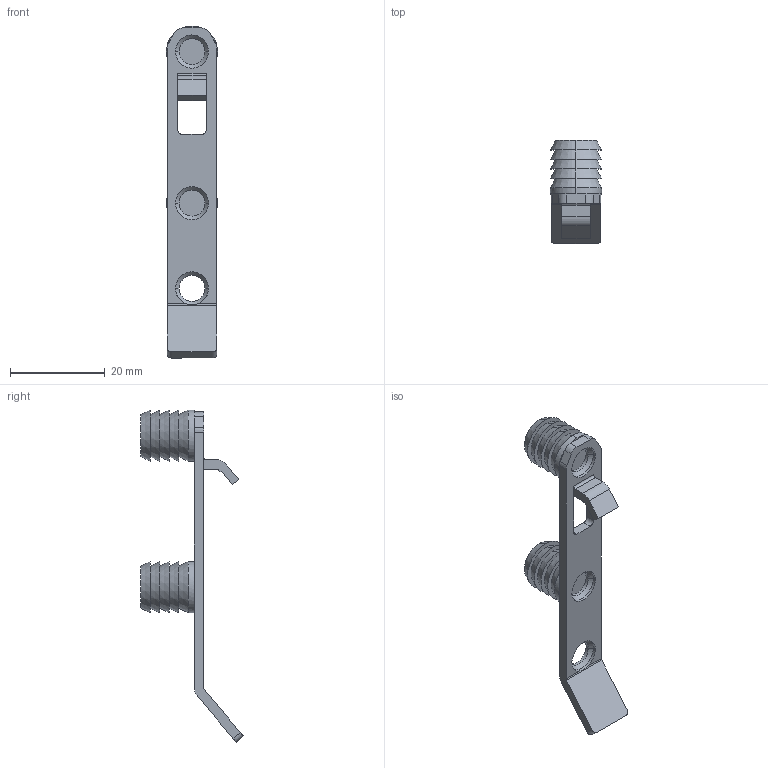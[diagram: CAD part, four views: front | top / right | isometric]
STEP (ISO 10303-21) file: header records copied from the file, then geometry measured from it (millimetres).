
FILE_DESCRIPTION (( 'STEP AP214' ), '1' );
FILE_NAME ('_Einhaengehaken_H90_Einpressvariante_32.step', '2010-07-15T08:03:20', ( 'grass' ), ( '' ), 'SwSTEP 2.0', 'SolidWorks 2009', '' );
FILE_SCHEMA (( 'AUTOMOTIVE_DESIGN' ));
Length unit declared in the file: millimetre
Products named in the file (1): _Einhaengehaken_H90_Einpressvariante_32
Bounding box: 10.8 x 21.66 x 70.09 mm (x, y, z)
Volume: 3026.8 mm3; surface area: 2902 mm2
Topology: 1 solids, 1 shells, 99 faces, 237 edges, 148 vertices
Faces by surface type: plane 43, cylinder 30, cone 26
Entity records: 2933 total; most frequent: DIRECTION 549, CARTESIAN_POINT 494, ORIENTED_EDGE 474, EDGE_CURVE 237, AXIS2_PLACEMENT_3D 213, VERTEX_POINT 148, LINE 123, VECTOR 123
